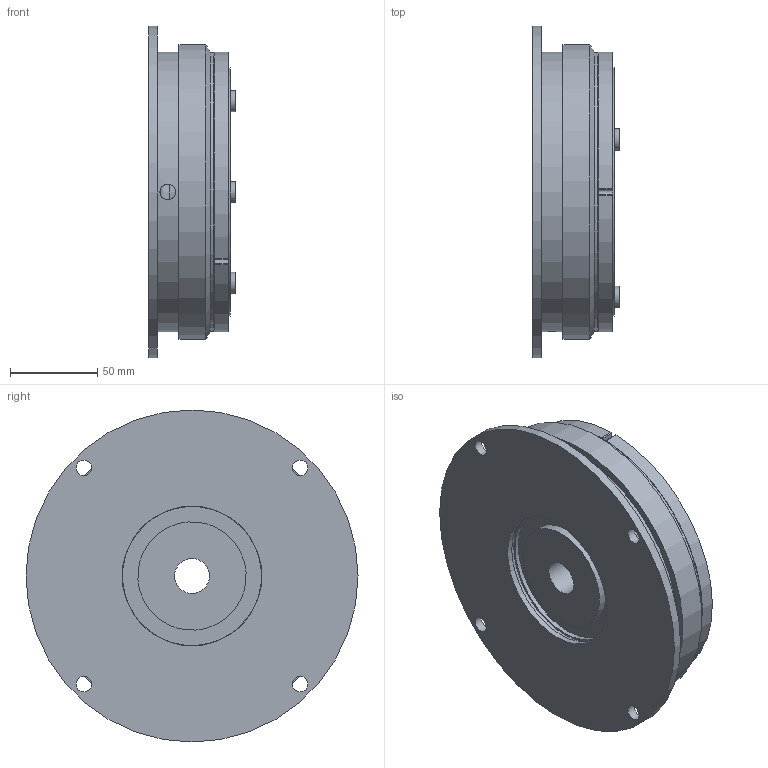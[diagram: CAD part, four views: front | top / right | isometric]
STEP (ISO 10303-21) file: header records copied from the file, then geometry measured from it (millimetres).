
FILE_DESCRIPTION(/* description */ (''),/* implementation_level */ '2;1');
FILE_NAME(/* name */ 'T:\INVENTOR\DISEGNI\08_Freni_Friz_Elettmag_Monodisco\08_20 ESAL\08_20_160_01 ESAL160\08.20.160.01 ESAL160@STEP.stp',/* time_stamp */ '2022-03-30T16:41:02+02:00',/* author */ ('w.sartori'),/* organization */ (''),/* preprocessor_version */ 'ST-DEVELOPER v18.1',/* originating_system */ 'Autodesk Inventor 2021',/* authorisation */ '');
FILE_SCHEMA (('AUTOMOTIVE_DESIGN { 1 0 10303 214 3 1 1 }'));
Length unit declared in the file: millimetre
Products named in the file (1): 08.20.160.01 ESAL160
Bounding box: 49.7 x 190 x 190 mm (x, y, z)
Volume: 647554.6 mm3; surface area: 191642.4 mm2
Topology: 3 solids, 6 shells, 212 faces, 478 edges, 297 vertices
Faces by surface type: cylinder 95, plane 57, torus 52, cone 8
Full cylindrical faces by diameter (mm): 3 x3, 8 x3, 8.1 x3, 8.2 x6, 9 x5, 12 x3, 20 x1, 21 x3, 62 x1, 70 x1, 79.5 x1, 80 x3, 82.1 x1, 94 x1, 98 x1, 99 x2, 142 x1, 149 x2, 152 x1, 160 x2, 160.5 x1, 169 x1, 190 x1
Entity records: 6334 total; most frequent: DIRECTION 1215, CARTESIAN_POINT 1071, ORIENTED_EDGE 956, AXIS2_PLACEMENT_3D 531, EDGE_CURVE 478, CIRCLE 318, VERTEX_POINT 297, EDGE_LOOP 277
